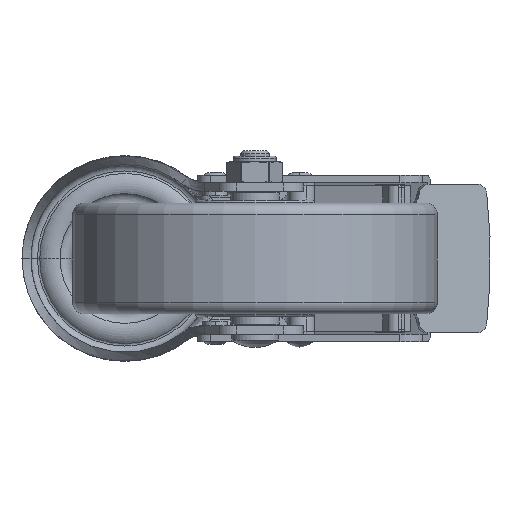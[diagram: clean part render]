
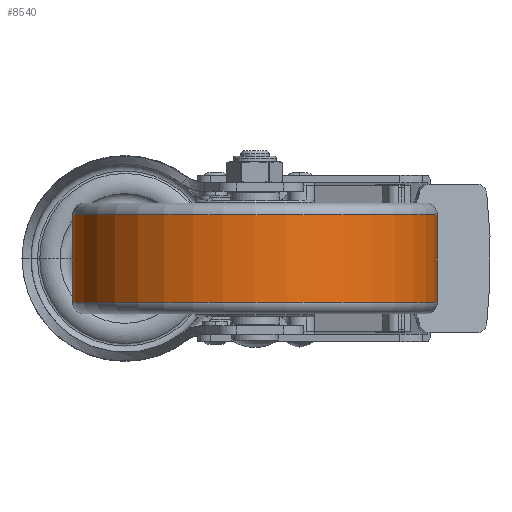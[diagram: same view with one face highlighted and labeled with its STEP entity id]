
A CAD part, front view. The second image highlights one B-rep face of the part: STEP entity #8540.
In plain terms, the highlighted cylindrical face has radius 62.5 mm (diameter 125 mm), a partial arc.
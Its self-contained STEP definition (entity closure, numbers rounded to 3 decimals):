
#7831=CARTESIAN_POINT('',(15.,0.,0.));
#7832=DIRECTION('',(-1.,0.,0.));
#7833=DIRECTION('',(0.,1.,0.));
#7834=AXIS2_PLACEMENT_3D('',#7831,#7832,#7833);
#7841=DIRECTION('',(1.,0.,0.));
#7842=VECTOR('',#7841,30.);
#7843=CARTESIAN_POINT('',(-15.,-62.5,0.));
#7844=LINE('',#7843,#7842);
#7845=DIRECTION('',(1.,0.,0.));
#7846=VECTOR('',#7845,30.);
#7847=CARTESIAN_POINT('',(-15.,62.5,0.));
#7848=LINE('',#7847,#7846);
#7864=CARTESIAN_POINT('',(-15.,0.,0.));
#7865=DIRECTION('',(1.,0.,0.));
#7866=DIRECTION('',(0.,-1.,0.));
#7867=AXIS2_PLACEMENT_3D('',#7864,#7865,#7866);
#8199=CARTESIAN_POINT('',(15.,62.5,0.));
#8200=VERTEX_POINT('',#8199);
#8201=CARTESIAN_POINT('',(15.,-62.5,0.));
#8202=VERTEX_POINT('',#8201);
#8203=CARTESIAN_POINT('',(-15.,62.5,0.));
#8204=VERTEX_POINT('',#8203);
#8205=CARTESIAN_POINT('',(-15.,-62.5,0.));
#8206=VERTEX_POINT('',#8205);
#8526=CARTESIAN_POINT('',(-20.9,0.,0.));
#8527=DIRECTION('',(1.,0.,0.));
#8528=DIRECTION('',(0.,-1.,0.));
#8529=AXIS2_PLACEMENT_3D('',#8526,#8527,#8528);
#8530=CYLINDRICAL_SURFACE('',#8529,62.5);
#8532=ORIENTED_EDGE('',*,*,#8531,.F.);
#8534=ORIENTED_EDGE('',*,*,#8533,.F.);
#8536=ORIENTED_EDGE('',*,*,#8535,.T.);
#8537=ORIENTED_EDGE('',*,*,#8519,.F.);
#8538=EDGE_LOOP('',(#8532,#8534,#8536,#8537));
#8539=FACE_OUTER_BOUND('',#8538,.F.);
#7835=CIRCLE('',#7834,62.5);
#7868=CIRCLE('',#7867,62.5);
#8519=EDGE_CURVE('',#8200,#8202,#7835,.T.);
#8531=EDGE_CURVE('',#8204,#8200,#7848,.T.);
#8533=EDGE_CURVE('',#8206,#8204,#7868,.T.);
#8535=EDGE_CURVE('',#8206,#8202,#7844,.T.);
#8540=ADVANCED_FACE('',(#8539),#8530,.T.);
